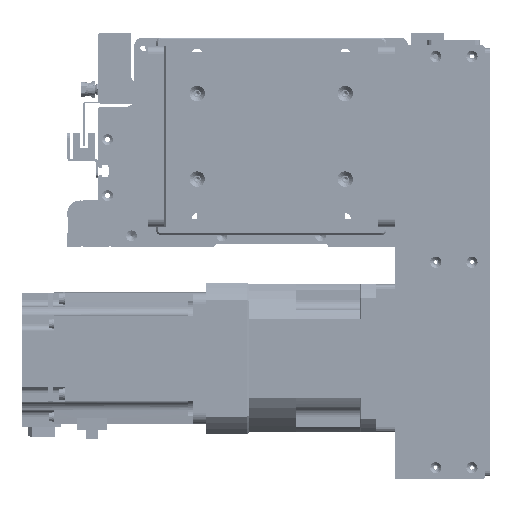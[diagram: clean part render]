
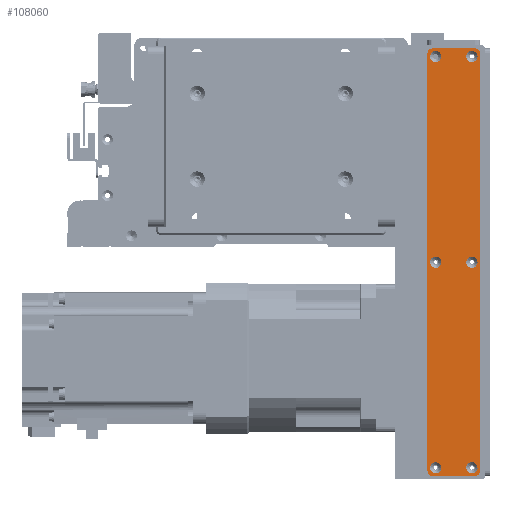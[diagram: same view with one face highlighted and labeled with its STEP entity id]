
A CAD part, front view. The second image highlights one B-rep face of the part: STEP entity #108060.
In plain terms, the highlighted planar face has unit normal (0, -1, 0).
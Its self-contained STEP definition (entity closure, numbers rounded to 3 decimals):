
#2762=FACE_BOUND('',#19713,.T.);
#2763=FACE_BOUND('',#19714,.T.);
#2764=FACE_BOUND('',#19715,.T.);
#2765=FACE_BOUND('',#19716,.T.);
#2766=FACE_BOUND('',#19717,.T.);
#2767=FACE_BOUND('',#19718,.T.);
#6726=PLANE('',#117445);
#13363=FACE_OUTER_BOUND('',#19712,.T.);
#19712=EDGE_LOOP('',(#101231,#101232,#101233,#101234,#101235,#101236,#101237,
#101238));
#19713=EDGE_LOOP('',(#101239));
#19714=EDGE_LOOP('',(#101240));
#19715=EDGE_LOOP('',(#101241));
#19716=EDGE_LOOP('',(#101242));
#19717=EDGE_LOOP('',(#101243));
#19718=EDGE_LOOP('',(#101244));
#31438=LINE('',#181601,#43126);
#31439=LINE('',#181605,#43127);
#31440=LINE('',#181609,#43128);
#31441=LINE('',#181612,#43129);
#43126=VECTOR('',#146001,10.);
#43127=VECTOR('',#146004,10.);
#43128=VECTOR('',#146007,10.);
#43129=VECTOR('',#146010,10.);
#46094=CIRCLE('',#117413,3.45);
#46097=CIRCLE('',#117418,3.45);
#46100=CIRCLE('',#117423,3.45);
#46103=CIRCLE('',#117428,3.45);
#46106=CIRCLE('',#117433,3.45);
#46109=CIRCLE('',#117438,3.45);
#46112=CIRCLE('',#117443,3.);
#46114=CIRCLE('',#117446,3.);
#46115=CIRCLE('',#117447,3.);
#46116=CIRCLE('',#117448,3.);
#56115=VERTEX_POINT('',#181531);
#56118=VERTEX_POINT('',#181541);
#56121=VERTEX_POINT('',#181551);
#56124=VERTEX_POINT('',#181561);
#56127=VERTEX_POINT('',#181571);
#56130=VERTEX_POINT('',#181581);
#56133=VERTEX_POINT('',#181591);
#56134=VERTEX_POINT('',#181592);
#56137=VERTEX_POINT('',#181600);
#56138=VERTEX_POINT('',#181602);
#56139=VERTEX_POINT('',#181604);
#56140=VERTEX_POINT('',#181606);
#56141=VERTEX_POINT('',#181608);
#56142=VERTEX_POINT('',#181610);
#71214=EDGE_CURVE('',#56115,#56115,#46094,.T.);
#71219=EDGE_CURVE('',#56118,#56118,#46097,.T.);
#71224=EDGE_CURVE('',#56121,#56121,#46100,.T.);
#71229=EDGE_CURVE('',#56124,#56124,#46103,.T.);
#71234=EDGE_CURVE('',#56127,#56127,#46106,.T.);
#71239=EDGE_CURVE('',#56130,#56130,#46109,.T.);
#71244=EDGE_CURVE('',#56133,#56134,#46112,.T.);
#71248=EDGE_CURVE('',#56133,#56137,#31438,.T.);
#71249=EDGE_CURVE('',#56138,#56137,#46114,.T.);
#71250=EDGE_CURVE('',#56138,#56139,#31439,.T.);
#71251=EDGE_CURVE('',#56140,#56139,#46115,.T.);
#71252=EDGE_CURVE('',#56140,#56141,#31440,.T.);
#71253=EDGE_CURVE('',#56142,#56141,#46116,.T.);
#71254=EDGE_CURVE('',#56142,#56134,#31441,.T.);
#101231=ORIENTED_EDGE('',*,*,#71244,.F.);
#101232=ORIENTED_EDGE('',*,*,#71248,.T.);
#101233=ORIENTED_EDGE('',*,*,#71249,.F.);
#101234=ORIENTED_EDGE('',*,*,#71250,.T.);
#101235=ORIENTED_EDGE('',*,*,#71251,.F.);
#101236=ORIENTED_EDGE('',*,*,#71252,.T.);
#101237=ORIENTED_EDGE('',*,*,#71253,.F.);
#101238=ORIENTED_EDGE('',*,*,#71254,.T.);
#101239=ORIENTED_EDGE('',*,*,#71214,.T.);
#101240=ORIENTED_EDGE('',*,*,#71219,.T.);
#101241=ORIENTED_EDGE('',*,*,#71224,.T.);
#101242=ORIENTED_EDGE('',*,*,#71229,.T.);
#101243=ORIENTED_EDGE('',*,*,#71234,.T.);
#101244=ORIENTED_EDGE('',*,*,#71239,.T.);
#108060=ADVANCED_FACE('',(#13363,#2762,#2763,#2764,#2765,#2766,#2767),#6726,
 .T.);
#117413=AXIS2_PLACEMENT_3D('',#181532,#145921,#145922);
#117418=AXIS2_PLACEMENT_3D('',#181542,#145933,#145934);
#117423=AXIS2_PLACEMENT_3D('',#181552,#145945,#145946);
#117428=AXIS2_PLACEMENT_3D('',#181562,#145957,#145958);
#117433=AXIS2_PLACEMENT_3D('',#181572,#145969,#145970);
#117438=AXIS2_PLACEMENT_3D('',#181582,#145981,#145982);
#117443=AXIS2_PLACEMENT_3D('',#181593,#145993,#145994);
#117445=AXIS2_PLACEMENT_3D('',#181599,#145999,#146000);
#117446=AXIS2_PLACEMENT_3D('',#181603,#146002,#146003);
#117447=AXIS2_PLACEMENT_3D('',#181607,#146005,#146006);
#117448=AXIS2_PLACEMENT_3D('',#181611,#146008,#146009);
#145921=DIRECTION('center_axis',(0.,1.,0.));
#145922=DIRECTION('ref_axis',(1.,0.,0.));
#145933=DIRECTION('center_axis',(0.,1.,0.));
#145934=DIRECTION('ref_axis',(1.,0.,0.));
#145945=DIRECTION('center_axis',(0.,1.,0.));
#145946=DIRECTION('ref_axis',(1.,0.,0.));
#145957=DIRECTION('center_axis',(0.,1.,0.));
#145958=DIRECTION('ref_axis',(1.,0.,0.));
#145969=DIRECTION('center_axis',(0.,1.,0.));
#145970=DIRECTION('ref_axis',(1.,0.,0.));
#145981=DIRECTION('center_axis',(0.,1.,0.));
#145982=DIRECTION('ref_axis',(1.,0.,0.));
#145993=DIRECTION('center_axis',(0.,1.,0.));
#145994=DIRECTION('ref_axis',(-0.707,0.,0.707));
#145999=DIRECTION('center_axis',(0.,-1.,0.));
#146000=DIRECTION('ref_axis',(0.,0.,-1.));
#146001=DIRECTION('',(0.,0.,-1.));
#146002=DIRECTION('center_axis',(0.,1.,0.));
#146003=DIRECTION('ref_axis',(-0.707,0.,-0.707));
#146004=DIRECTION('',(1.,0.,0.));
#146005=DIRECTION('center_axis',(0.,1.,0.));
#146006=DIRECTION('ref_axis',(0.707,0.,-0.707));
#146007=DIRECTION('',(0.,0.,1.));
#146008=DIRECTION('center_axis',(0.,1.,0.));
#146009=DIRECTION('ref_axis',(0.707,0.,0.707));
#146010=DIRECTION('',(-1.,0.,0.));
#181531=CARTESIAN_POINT('',(121.55,-1.5,11.));
#181532=CARTESIAN_POINT('Origin',(125.,-1.5,11.));
#181541=CARTESIAN_POINT('',(-3.45,-1.5,11.));
#181542=CARTESIAN_POINT('Origin',(0.,-1.5,11.));
#181551=CARTESIAN_POINT('',(-128.45,-1.5,11.));
#181552=CARTESIAN_POINT('Origin',(-125.,-1.5,11.));
#181561=CARTESIAN_POINT('',(-128.45,-1.5,-11.));
#181562=CARTESIAN_POINT('Origin',(-125.,-1.5,-11.));
#181571=CARTESIAN_POINT('',(-3.45,-1.5,-11.));
#181572=CARTESIAN_POINT('Origin',(0.,-1.5,-11.));
#181581=CARTESIAN_POINT('',(121.55,-1.5,-11.));
#181582=CARTESIAN_POINT('Origin',(125.,-1.5,-11.));
#181591=CARTESIAN_POINT('',(-130.,-1.5,13.));
#181592=CARTESIAN_POINT('',(-127.,-1.5,16.));
#181593=CARTESIAN_POINT('Origin',(-127.,-1.5,13.));
#181599=CARTESIAN_POINT('Origin',(0.,-1.5,0.));
#181600=CARTESIAN_POINT('',(-130.,-1.5,-13.));
#181601=CARTESIAN_POINT('',(-130.,-1.5,16.));
#181602=CARTESIAN_POINT('',(-127.,-1.5,-16.));
#181603=CARTESIAN_POINT('Origin',(-127.,-1.5,-13.));
#181604=CARTESIAN_POINT('',(127.,-1.5,-16.));
#181605=CARTESIAN_POINT('',(-130.,-1.5,-16.));
#181606=CARTESIAN_POINT('',(130.,-1.5,-13.));
#181607=CARTESIAN_POINT('Origin',(127.,-1.5,-13.));
#181608=CARTESIAN_POINT('',(130.,-1.5,13.));
#181609=CARTESIAN_POINT('',(130.,-1.5,-16.));
#181610=CARTESIAN_POINT('',(127.,-1.5,16.));
#181611=CARTESIAN_POINT('Origin',(127.,-1.5,13.));
#181612=CARTESIAN_POINT('',(130.,-1.5,16.));
